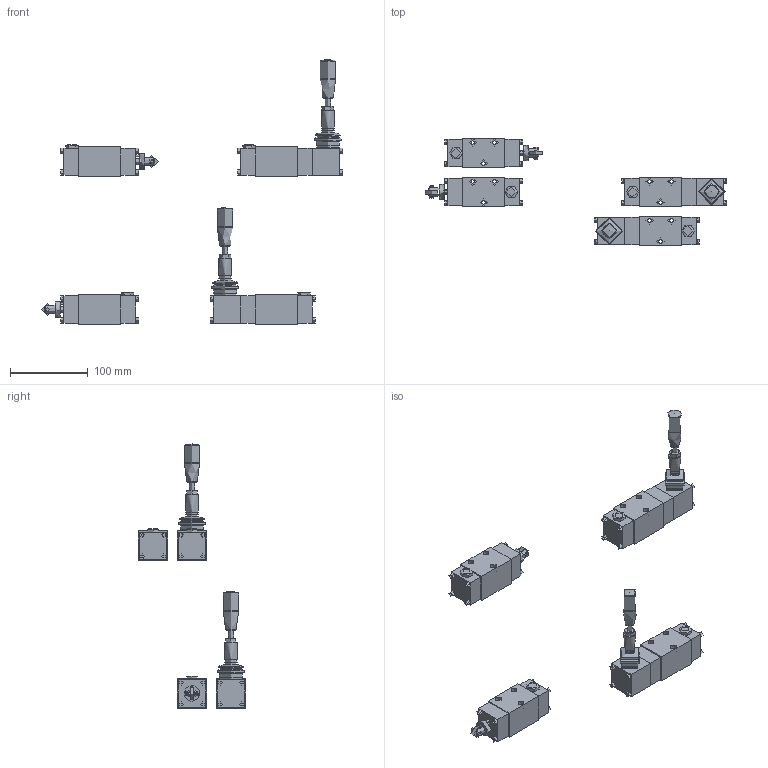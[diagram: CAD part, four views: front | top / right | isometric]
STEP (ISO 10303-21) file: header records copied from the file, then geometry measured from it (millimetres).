
FILE_DESCRIPTION(('Bauteilbeschreibung','HiCAD-Model','HiCAD-STEP-TRANSLATION','Bauteilbeschreibung'),'2;1');
FILE_NAME('D:/B_4_4.STP','2006-08-07T11:07:18+00:00',('Konstrukteur'),('Konstrukteur Firma GmbH'),'HiCAD3 V1210 STEP 1.6.2005','HiCAD3 V1210','confidential');
FILE_SCHEMA(('AUTOMOTIVE_DESIGN { 1 2 10303 214 0 1 1 1 }'));
Length unit declared in the file: millimetre
Products named in the file (87): B_4_4; BH4_4_A; AC8ABED3; A5E16FAE; A08D8804; A08D88040; IN6KTM4; IN6KTM40; IN6KTM41; IN6KTM42; IN6KTM43; A6B68E08; A6B68E080; FALTENBA; GRIFF; IN6KTM44; IN6KTM45; IN6KTM46; IN6KTM47; IN6KTM48; AC21BF7A; BT4_4_A; A2395772; A5E16FAE0; A08D88041; A08D88042; IN6KTM49; IN6KTM410; IN6KTM411; IN6KTM412; IN6KTM413; AC21BF7A0; A02C595D; A02C595D0; RING; STIFT; ROLLE; KOLBEN; STIFT0; IN6KTM414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
Assembly tree (86 placements, depth 6):
  B_4_4
    BH4_4_A
      AC8ABED3
        A5E16FAE
        A08D8804
        A08D88040
          IN6KTM4
            IN6KTM40
            IN6KTM41
            IN6KTM42
            IN6KTM43
        A6B68E08
        A6B68E080
          FALTENBA
          GRIFF
          IN6KTM44
            IN6KTM45
            IN6KTM46
            IN6KTM47
            IN6KTM48
        AC21BF7A
    BT4_4_A
      A2395772
        A5E16FAE0
        A08D88041
        A08D88042
          IN6KTM49
            IN6KTM410
            IN6KTM411
            IN6KTM412
            IN6KTM413
        AC21BF7A0
        A02C595D
        A02C595D0
          RING
          STIFT
          ROLLE
          KOLBEN
          STIFT0
        IN6KTM414
          IN6KTM415
          IN6KTM416
          IN6KTM417
          IN6KTM418
    BT4_4_B
      D4C39E7B
        A5E16FAE1
        A08D88043
        A08D88044
          IN6KTM419
            IN6KTM420
            IN6KTM421
            IN6KTM422
            IN6KTM423
        AC21BF7A1
        A02C595D1
        A02C595D2
          RING0
          STIFT1
          ROLLE0
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Bounding box: 387 x 138 x 340 mm (x, y, z)
Topology: 62 solids, 64 shells, 800 faces, 1737 edges, 1183 vertices
Faces by surface type: plane 544, cylinder 214, cone 30, torus 10, sphere 2
Full cylindrical faces by diameter (mm): 2.99 x4, 3.2 x8, 4 x42, 4.5 x40, 5.5 x12, 6 x2, 7 x36, 7.12 x2, 8.5 x20, 9.5 x12, 14 x2, 14.5 x2, 16 x6, 20 x4, 27.5 x2, 29.5 x4
Entity records: 43188 total; most frequent: CARTESIAN_POINT 11208, DIRECTION 3696, ORIENTED_EDGE 2760, COLOUR_RGB 2242, PRESENTATION_STYLE_ASSIGNMENT 2242, OVER_RIDING_STYLED_ITEM 2180, AXIS2_PLACEMENT_3D 1420, CURVE_STYLE 1380
